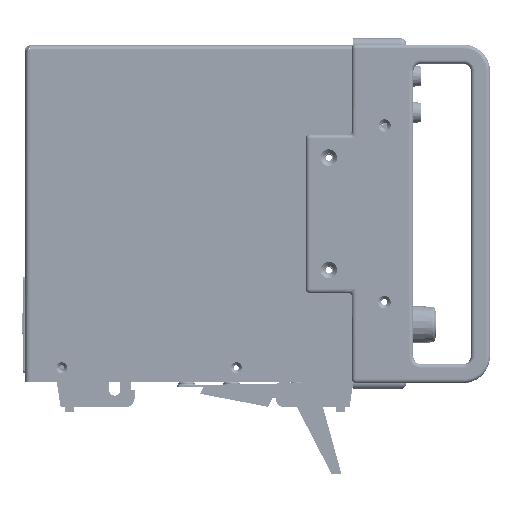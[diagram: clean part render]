
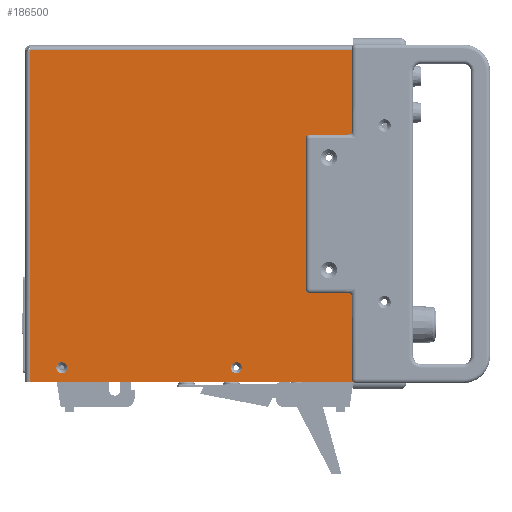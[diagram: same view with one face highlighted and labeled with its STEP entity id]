
A CAD part, left-side view. The second image highlights one B-rep face of the part: STEP entity #186500.
In plain terms, the highlighted planar face has unit normal (-1, 0, 0) as drawn and (0, 0, -1) by its records, which use the part's own axes.
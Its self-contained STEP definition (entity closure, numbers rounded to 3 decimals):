
#7013=FACE_BOUND('',#25558,.T.);
#7014=FACE_BOUND('',#25559,.T.);
#7015=FACE_BOUND('',#25560,.T.);
#7016=FACE_BOUND('',#25561,.T.);
#7017=FACE_BOUND('',#25562,.T.);
#7018=FACE_BOUND('',#25563,.T.);
#7019=FACE_BOUND('',#25564,.T.);
#8611=PLANE('',#198111);
#14838=FACE_OUTER_BOUND('',#25557,.T.);
#25557=EDGE_LOOP('',(#129087,#129088,#129089,#129090));
#25558=EDGE_LOOP('',(#129091,#129092));
#25559=EDGE_LOOP('',(#129093,#129094));
#25560=EDGE_LOOP('',(#129095,#129096));
#25561=EDGE_LOOP('',(#129097,#129098));
#25562=EDGE_LOOP('',(#129099,#129100));
#25563=EDGE_LOOP('',(#129101,#129102));
#25564=EDGE_LOOP('',(#129103,#129104));
#37690=LINE('',#264645,#57000);
#37736=LINE('',#264897,#57046);
#37747=LINE('',#264938,#57057);
#37751=LINE('',#264946,#57061);
#57000=VECTOR('',#214336,10.);
#57046=VECTOR('',#214446,10.);
#57057=VECTOR('',#214495,10.);
#57061=VECTOR('',#214505,10.);
#76219=CIRCLE('',#197928,3.25);
#76220=CIRCLE('',#197929,3.25);
#76282=CIRCLE('',#198023,2.85);
#76283=CIRCLE('',#198024,2.85);
#76285=CIRCLE('',#198027,2.85);
#76286=CIRCLE('',#198028,2.85);
#76288=CIRCLE('',#198032,3.7);
#76289=CIRCLE('',#198033,3.7);
#76291=CIRCLE('',#198037,3.7);
#76292=CIRCLE('',#198038,3.7);
#76318=CIRCLE('',#198102,3.25);
#76319=CIRCLE('',#198103,3.25);
#76320=CIRCLE('',#198105,3.25);
#76321=CIRCLE('',#198106,3.25);
#82071=VERTEX_POINT('',#264328);
#82072=VERTEX_POINT('',#264330);
#82162=VERTEX_POINT('',#264573);
#82163=VERTEX_POINT('',#264575);
#82165=VERTEX_POINT('',#264581);
#82166=VERTEX_POINT('',#264583);
#82168=VERTEX_POINT('',#264591);
#82169=VERTEX_POINT('',#264593);
#82171=VERTEX_POINT('',#264601);
#82172=VERTEX_POINT('',#264603);
#82187=VERTEX_POINT('',#264642);
#82188=VERTEX_POINT('',#264644);
#82218=VERTEX_POINT('',#264895);
#82225=VERTEX_POINT('',#264925);
#82226=VERTEX_POINT('',#264927);
#82227=VERTEX_POINT('',#264931);
#82228=VERTEX_POINT('',#264933);
#82229=VERTEX_POINT('',#264937);
#100211=EDGE_CURVE('',#82072,#82071,#76219,.T.);
#100212=EDGE_CURVE('',#82071,#82072,#76220,.T.);
#100333=EDGE_CURVE('',#82163,#82162,#76282,.T.);
#100334=EDGE_CURVE('',#82162,#82163,#76283,.T.);
#100337=EDGE_CURVE('',#82166,#82165,#76285,.T.);
#100338=EDGE_CURVE('',#82165,#82166,#76286,.T.);
#100342=EDGE_CURVE('',#82169,#82168,#76288,.T.);
#100343=EDGE_CURVE('',#82168,#82169,#76289,.T.);
#100347=EDGE_CURVE('',#82172,#82171,#76291,.T.);
#100348=EDGE_CURVE('',#82171,#82172,#76292,.T.);
#100367=EDGE_CURVE('',#82188,#82187,#37690,.T.);
#100428=EDGE_CURVE('',#82218,#82187,#37736,.T.);
#100443=EDGE_CURVE('',#82226,#82225,#76318,.T.);
#100444=EDGE_CURVE('',#82225,#82226,#76319,.T.);
#100446=EDGE_CURVE('',#82228,#82227,#76320,.T.);
#100447=EDGE_CURVE('',#82227,#82228,#76321,.T.);
#100448=EDGE_CURVE('',#82229,#82188,#37747,.T.);
#100453=EDGE_CURVE('',#82229,#82218,#37751,.T.);
#129087=ORIENTED_EDGE('',*,*,#100367,.T.);
#129088=ORIENTED_EDGE('',*,*,#100428,.F.);
#129089=ORIENTED_EDGE('',*,*,#100453,.F.);
#129090=ORIENTED_EDGE('',*,*,#100448,.T.);
#129091=ORIENTED_EDGE('',*,*,#100211,.T.);
#129092=ORIENTED_EDGE('',*,*,#100212,.T.);
#129093=ORIENTED_EDGE('',*,*,#100333,.T.);
#129094=ORIENTED_EDGE('',*,*,#100334,.T.);
#129095=ORIENTED_EDGE('',*,*,#100337,.T.);
#129096=ORIENTED_EDGE('',*,*,#100338,.T.);
#129097=ORIENTED_EDGE('',*,*,#100342,.T.);
#129098=ORIENTED_EDGE('',*,*,#100343,.T.);
#129099=ORIENTED_EDGE('',*,*,#100347,.T.);
#129100=ORIENTED_EDGE('',*,*,#100348,.T.);
#129101=ORIENTED_EDGE('',*,*,#100443,.T.);
#129102=ORIENTED_EDGE('',*,*,#100444,.T.);
#129103=ORIENTED_EDGE('',*,*,#100446,.T.);
#129104=ORIENTED_EDGE('',*,*,#100447,.T.);
#186500=ADVANCED_FACE('',(#14838,#7013,#7014,#7015,#7016,#7017,#7018,#7019),
#8611,.F.);
#197928=AXIS2_PLACEMENT_3D('',#264331,#214009,#214010);
#197929=AXIS2_PLACEMENT_3D('',#264332,#214011,#214012);
#198023=AXIS2_PLACEMENT_3D('',#264576,#214258,#214259);
#198024=AXIS2_PLACEMENT_3D('',#264577,#214260,#214261);
#198027=AXIS2_PLACEMENT_3D('',#264584,#214267,#214268);
#198028=AXIS2_PLACEMENT_3D('',#264585,#214269,#214270);
#198032=AXIS2_PLACEMENT_3D('',#264594,#214279,#214280);
#198033=AXIS2_PLACEMENT_3D('',#264595,#214281,#214282);
#198037=AXIS2_PLACEMENT_3D('',#264604,#214291,#214292);
#198038=AXIS2_PLACEMENT_3D('',#264605,#214293,#214294);
#198102=AXIS2_PLACEMENT_3D('',#264928,#214482,#214483);
#198103=AXIS2_PLACEMENT_3D('',#264929,#214484,#214485);
#198105=AXIS2_PLACEMENT_3D('',#264934,#214489,#214490);
#198106=AXIS2_PLACEMENT_3D('',#264935,#214491,#214492);
#198111=AXIS2_PLACEMENT_3D('',#264947,#214506,#214507);
#214009=DIRECTION('center_axis',(0.,0.,
1.));
#214010=DIRECTION('ref_axis',(-1.,0.,0.));
#214011=DIRECTION('center_axis',(0.,0.,
1.));
#214012=DIRECTION('ref_axis',(-1.,0.,0.));
#214258=DIRECTION('center_axis',(0.,0.,
1.));
#214259=DIRECTION('ref_axis',(-1.,0.,0.));
#214260=DIRECTION('center_axis',(0.,0.,
1.));
#214261=DIRECTION('ref_axis',(-1.,0.,0.));
#214267=DIRECTION('center_axis',(0.,0.,
1.));
#214268=DIRECTION('ref_axis',(-1.,0.,0.));
#214269=DIRECTION('center_axis',(0.,0.,
1.));
#214270=DIRECTION('ref_axis',(-1.,0.,0.));
#214279=DIRECTION('center_axis',(0.,0.,
1.));
#214280=DIRECTION('ref_axis',(-1.,0.,0.));
#214281=DIRECTION('center_axis',(0.,0.,
1.));
#214282=DIRECTION('ref_axis',(-1.,0.,0.));
#214291=DIRECTION('center_axis',(0.,0.,
1.));
#214292=DIRECTION('ref_axis',(-1.,0.,0.));
#214293=DIRECTION('center_axis',(0.,0.,
1.));
#214294=DIRECTION('ref_axis',(-1.,0.,0.));
#214336=DIRECTION('',(0.,1.,0.));
#214446=DIRECTION('',(-1.,0.,0.));
#214482=DIRECTION('center_axis',(0.,0.,
1.));
#214483=DIRECTION('ref_axis',(-1.,0.,0.));
#214484=DIRECTION('center_axis',(0.,0.,
1.));
#214485=DIRECTION('ref_axis',(-1.,0.,0.));
#214489=DIRECTION('center_axis',(0.,0.,
1.));
#214490=DIRECTION('ref_axis',(-1.,0.,0.));
#214491=DIRECTION('center_axis',(0.,0.,
1.));
#214492=DIRECTION('ref_axis',(-1.,0.,0.));
#214495=DIRECTION('',(-1.,0.,0.));
#214505=DIRECTION('',(0.,1.,0.));
#214506=DIRECTION('center_axis',(0.,0.,
1.));
#214507=DIRECTION('ref_axis',(0.,-1.,0.));
#264328=CARTESIAN_POINT('',(190.65,168.,-430.6));
#264330=CARTESIAN_POINT('',(184.15,168.,-430.6));
#264331=CARTESIAN_POINT('Origin',(187.4,168.,-430.6));
#264332=CARTESIAN_POINT('Origin',(187.4,168.,-430.6));
#264573=CARTESIAN_POINT('',(113.05,168.,-430.6));
#264575=CARTESIAN_POINT('',(107.35,168.,-430.6));
#264576=CARTESIAN_POINT('Origin',(110.2,168.,-430.6));
#264577=CARTESIAN_POINT('Origin',(110.2,168.,-430.6));
#264581=CARTESIAN_POINT('',(22.15,168.,-430.6));
#264583=CARTESIAN_POINT('',(16.45,168.,-430.6));
#264584=CARTESIAN_POINT('Origin',(19.3,168.,-430.6));
#264585=CARTESIAN_POINT('Origin',(19.3,168.,-430.6));
#264591=CARTESIAN_POINT('',(162.1,58.5,-430.6));
#264593=CARTESIAN_POINT('',(154.7,58.5,-430.6));
#264594=CARTESIAN_POINT('Origin',(158.4,58.5,-430.6));
#264595=CARTESIAN_POINT('Origin',(158.4,58.5,-430.6));
#264601=CARTESIAN_POINT('',(162.1,117.1,-430.6));
#264603=CARTESIAN_POINT('',(154.7,117.1,-430.6));
#264604=CARTESIAN_POINT('Origin',(158.4,117.1,-430.6));
#264605=CARTESIAN_POINT('Origin',(158.4,117.1,-430.6));
#264642=CARTESIAN_POINT('',(2.6,175.5,-430.6));
#264644=CARTESIAN_POINT('',(2.6,2.6,-430.6));
#264645=CARTESIAN_POINT('',(2.6,45.134,-430.6));
#264895=CARTESIAN_POINT('',(193.2,175.5,-430.6));
#264897=CARTESIAN_POINT('',(193.2,175.5,-430.6));
#264925=CARTESIAN_POINT('',(190.65,41.8,-430.6));
#264927=CARTESIAN_POINT('',(184.15,41.8,-430.6));
#264928=CARTESIAN_POINT('Origin',(187.4,41.8,-430.6));
#264929=CARTESIAN_POINT('Origin',(187.4,41.8,-430.6));
#264931=CARTESIAN_POINT('',(190.65,133.8,-430.6));
#264933=CARTESIAN_POINT('',(184.15,133.8,-430.6));
#264934=CARTESIAN_POINT('Origin',(187.4,133.8,-430.6));
#264935=CARTESIAN_POINT('Origin',(187.4,133.8,-430.6));
#264937=CARTESIAN_POINT('',(193.2,2.6,-430.6));
#264938=CARTESIAN_POINT('',(96.6,2.6,-430.6));
#264946=CARTESIAN_POINT('',(193.2,2.6,-430.6));
#264947=CARTESIAN_POINT('Origin',(96.6,87.668,-430.6));
